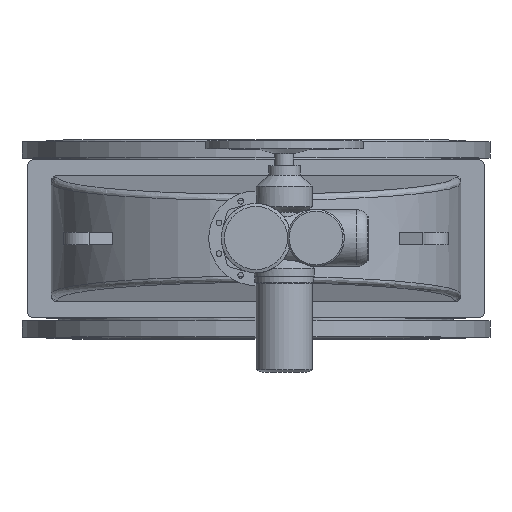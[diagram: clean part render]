
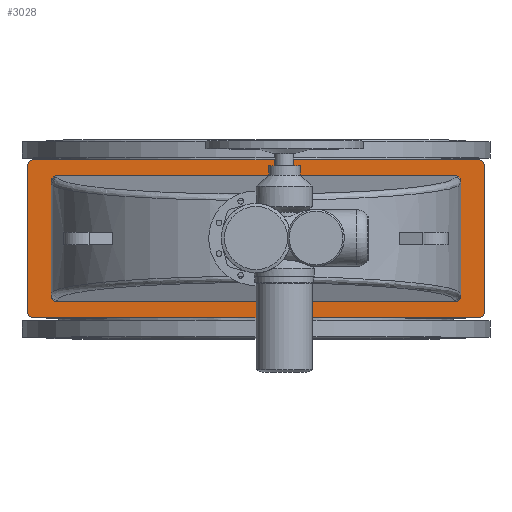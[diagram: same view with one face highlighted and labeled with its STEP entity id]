
A CAD part, top view. The second image highlights one B-rep face of the part: STEP entity #3028.
In plain terms, the highlighted planar face has unit normal (0, 0, 1).
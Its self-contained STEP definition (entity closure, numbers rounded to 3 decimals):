
#3028=ADVANCED_FACE('',(#10158,#10160),#10162,.T.);
#10158=FACE_BOUND('',#10159,.T.);
#10159=EDGE_LOOP('',(#13396,#13397,#13398,#13399,#13400,#13401,#13402,#13403));
#10160=FACE_BOUND('',#10161,.T.);
#10161=EDGE_LOOP('',(#13404,#13405,#13406,#13407,#13408,#13409,#13410,#13411));
#10162=PLANE('',#10163);
#10163=AXIS2_PLACEMENT_3D('',#10164,#10165,#10166);
#10164=CARTESIAN_POINT('',(0.,0.,1366.));
#10165=DIRECTION('',(0.,-0.,1.));
#10166=DIRECTION('',(0.,1.,0.));
#13396=ORIENTED_EDGE('',*,*,#14708,.F.);
#13397=ORIENTED_EDGE('',*,*,#14721,.T.);
#13398=ORIENTED_EDGE('',*,*,#14720,.F.);
#13399=ORIENTED_EDGE('',*,*,#14718,.T.);
#13400=ORIENTED_EDGE('',*,*,#14716,.F.);
#13401=ORIENTED_EDGE('',*,*,#14714,.T.);
#13402=ORIENTED_EDGE('',*,*,#14712,.F.);
#13403=ORIENTED_EDGE('',*,*,#14709,.T.);
#13404=ORIENTED_EDGE('',*,*,#14722,.F.);
#13405=ORIENTED_EDGE('',*,*,#14723,.F.);
#13406=ORIENTED_EDGE('',*,*,#14724,.F.);
#13407=ORIENTED_EDGE('',*,*,#14725,.F.);
#13408=ORIENTED_EDGE('',*,*,#14726,.F.);
#13409=ORIENTED_EDGE('',*,*,#14727,.F.);
#13410=ORIENTED_EDGE('',*,*,#14728,.F.);
#13411=ORIENTED_EDGE('',*,*,#14729,.F.);
#14708=EDGE_CURVE('',#16284,#16282,#16286,.F.);
#14709=EDGE_CURVE('',#16287,#16282,#16288,.T.);
#14712=EDGE_CURVE('',#16287,#16290,#16292,.F.);
#14714=EDGE_CURVE('',#16293,#16290,#16295,.T.);
#14716=EDGE_CURVE('',#16293,#16296,#16298,.F.);
#14718=EDGE_CURVE('',#16299,#16296,#16301,.T.);
#14720=EDGE_CURVE('',#16299,#16302,#16304,.F.);
#14721=EDGE_CURVE('',#16284,#16302,#16305,.T.);
#14722=EDGE_CURVE('',#16306,#16307,#16308,.F.);
#14723=EDGE_CURVE('',#16309,#16306,#16310,.T.);
#14724=EDGE_CURVE('',#16311,#16309,#16312,.T.);
#14725=EDGE_CURVE('',#16313,#16311,#16314,.T.);
#14726=EDGE_CURVE('',#16315,#16313,#16316,.F.);
#14727=EDGE_CURVE('',#16317,#16315,#16318,.T.);
#14728=EDGE_CURVE('',#16319,#16317,#16320,.T.);
#14729=EDGE_CURVE('',#16307,#16319,#16321,.T.);
#16282=VERTEX_POINT('',#21073);
#16284=VERTEX_POINT('',#21077);
#16286=CIRCLE('',#21081,20.);
#16287=VERTEX_POINT('',#21085);
#16288=LINE('',#21086,#21087);
#16290=VERTEX_POINT('',#21092);
#16292=CIRCLE('',#21096,20.);
#16293=VERTEX_POINT('',#21100);
#16295=LINE('',#21104,#21105);
#16296=VERTEX_POINT('',#21107);
#16298=CIRCLE('',#21111,20.);
#16299=VERTEX_POINT('',#21115);
#16301=LINE('',#21119,#21120);
#16302=VERTEX_POINT('',#21122);
#16304=CIRCLE('',#21126,20.);
#16305=LINE('',#21130,#21131);
#16306=VERTEX_POINT('',#21133);
#16307=VERTEX_POINT('',#21134);
#16308=(BOUNDED_CURVE()B_SPLINE_CURVE(3,
(#21135,#21136,#21137,#21138),
.UNSPECIFIED.,.F.,.F.)B_SPLINE_CURVE_WITH_KNOTS((4,4),
(0.,1.),
.UNSPECIFIED.)CURVE()GEOMETRIC_REPRESENTATION_ITEM()RATIONAL_B_SPLINE_CURVE((1.,
0.805,0.805,1.))REPRESENTATION_ITEM(''));
#16309=VERTEX_POINT('',#21139);
#16310=LINE('',#21140,#21141);
#16311=VERTEX_POINT('',#21143);
#16312=(BOUNDED_CURVE()B_SPLINE_CURVE(3,
(#21144,#21145,#21146,#21147),
.UNSPECIFIED.,.F.,.F.)B_SPLINE_CURVE_WITH_KNOTS((4,4),
(0.,1.),
.UNSPECIFIED.)CURVE()GEOMETRIC_REPRESENTATION_ITEM()RATIONAL_B_SPLINE_CURVE((1.,
0.805,0.805,1.))REPRESENTATION_ITEM(''));
#16313=VERTEX_POINT('',#21148);
#16314=LINE('',#21149,#21150);
#16315=VERTEX_POINT('',#21152);
#16316=(BOUNDED_CURVE()B_SPLINE_CURVE(3,
(#21153,#21154,#21155,#21156),
.UNSPECIFIED.,.F.,.F.)B_SPLINE_CURVE_WITH_KNOTS((4,4),
(0.,1.),
.UNSPECIFIED.)CURVE()GEOMETRIC_REPRESENTATION_ITEM()RATIONAL_B_SPLINE_CURVE((1.,
0.805,0.805,1.))REPRESENTATION_ITEM(''));
#16317=VERTEX_POINT('',#21157);
#16318=LINE('',#21158,#21159);
#16319=VERTEX_POINT('',#21161);
#16320=(BOUNDED_CURVE()B_SPLINE_CURVE(3,
(#21162,#21163,#21164,#21165),
.UNSPECIFIED.,.F.,.F.)B_SPLINE_CURVE_WITH_KNOTS((4,4),
(0.,1.),
.UNSPECIFIED.)CURVE()GEOMETRIC_REPRESENTATION_ITEM()RATIONAL_B_SPLINE_CURVE((1.,
0.805,0.805,1.))REPRESENTATION_ITEM(''));
#16321=LINE('',#21166,#21167);
#21073=CARTESIAN_POINT('',(-725.,-230.,1366.));
#21077=CARTESIAN_POINT('',(-705.,-250.,1366.));
#21081=AXIS2_PLACEMENT_3D('',#21082,#21083,#21084);
#21082=CARTESIAN_POINT('',(-705.,-230.,1366.));
#21083=DIRECTION('',(0.,-0.,1.));
#21084=DIRECTION('',(-1.,0.,0.));
#21085=CARTESIAN_POINT('',(-725.,230.,1366.));
#21086=CARTESIAN_POINT('',(-725.,230.,1366.));
#21087=VECTOR('',#21088,1.);
#21088=DIRECTION('',(0.,-1.,0.));
#21092=CARTESIAN_POINT('',(-705.,250.,1366.));
#21096=AXIS2_PLACEMENT_3D('',#21097,#21098,#21099);
#21097=CARTESIAN_POINT('',(-705.,230.,1366.));
#21098=DIRECTION('',(0.,-0.,1.));
#21099=DIRECTION('',(0.,1.,0.));
#21100=CARTESIAN_POINT('',(705.,250.,1366.));
#21104=CARTESIAN_POINT('',(705.,250.,1366.));
#21105=VECTOR('',#21106,1.);
#21106=DIRECTION('',(-1.,0.,0.));
#21107=CARTESIAN_POINT('',(725.,230.,1366.));
#21111=AXIS2_PLACEMENT_3D('',#21112,#21113,#21114);
#21112=CARTESIAN_POINT('',(705.,230.,1366.));
#21113=DIRECTION('',(0.,-0.,1.));
#21114=DIRECTION('',(1.,0.,0.));
#21115=CARTESIAN_POINT('',(725.,-230.,1366.));
#21119=CARTESIAN_POINT('',(725.,-230.,1366.));
#21120=VECTOR('',#21121,1.);
#21121=DIRECTION('',(0.,1.,0.));
#21122=CARTESIAN_POINT('',(705.,-250.,1366.));
#21126=AXIS2_PLACEMENT_3D('',#21127,#21128,#21129);
#21127=CARTESIAN_POINT('',(705.,-230.,1366.));
#21128=DIRECTION('',(0.,-0.,1.));
#21129=DIRECTION('',(0.,-1.,0.));
#21130=CARTESIAN_POINT('',(-705.,-250.,1366.));
#21131=VECTOR('',#21132,1.);
#21132=DIRECTION('',(1.,0.,0.));
#21133=CARTESIAN_POINT('',(630.,-200.,1366.));
#21134=CARTESIAN_POINT('',(650.,-179.924,1366.));
#21135=CARTESIAN_POINT('',(650.,-179.924,1366.));
#21136=CARTESIAN_POINT('',(650.,-191.684,1366.));
#21137=CARTESIAN_POINT('',(641.716,-200.,1366.));
#21138=CARTESIAN_POINT('',(630.,-200.,1366.));
#21139=CARTESIAN_POINT('',(-630.,-200.,1366.));
#21140=CARTESIAN_POINT('',(-630.,-200.,1366.));
#21141=VECTOR('',#21142,1.);
#21142=DIRECTION('',(1.,0.,0.));
#21143=CARTESIAN_POINT('',(-650.,-179.924,1366.));
#21144=CARTESIAN_POINT('',(-650.,-179.924,1366.));
#21145=CARTESIAN_POINT('',(-650.,-191.684,1366.));
#21146=CARTESIAN_POINT('',(-641.716,-200.,1366.));
#21147=CARTESIAN_POINT('',(-630.,-200.,1366.));
#21148=CARTESIAN_POINT('',(-650.,179.924,1366.));
#21149=CARTESIAN_POINT('',(-650.,179.924,1366.));
#21150=VECTOR('',#21151,1.);
#21151=DIRECTION('',(0.,-1.,0.));
#21152=CARTESIAN_POINT('',(-630.,200.,1366.));
#21153=CARTESIAN_POINT('',(-650.,179.924,1366.));
#21154=CARTESIAN_POINT('',(-650.,191.684,1366.));
#21155=CARTESIAN_POINT('',(-641.716,200.,1366.));
#21156=CARTESIAN_POINT('',(-630.,200.,1366.));
#21157=CARTESIAN_POINT('',(630.,200.,1366.));
#21158=CARTESIAN_POINT('',(630.,200.,1366.));
#21159=VECTOR('',#21160,1.);
#21160=DIRECTION('',(-1.,0.,0.));
#21161=CARTESIAN_POINT('',(650.,179.924,1366.));
#21162=CARTESIAN_POINT('',(650.,179.924,1366.));
#21163=CARTESIAN_POINT('',(650.,191.684,1366.));
#21164=CARTESIAN_POINT('',(641.716,200.,1366.));
#21165=CARTESIAN_POINT('',(630.,200.,1366.));
#21166=CARTESIAN_POINT('',(650.,-179.924,1366.));
#21167=VECTOR('',#21168,1.);
#21168=DIRECTION('',(0.,1.,0.));
